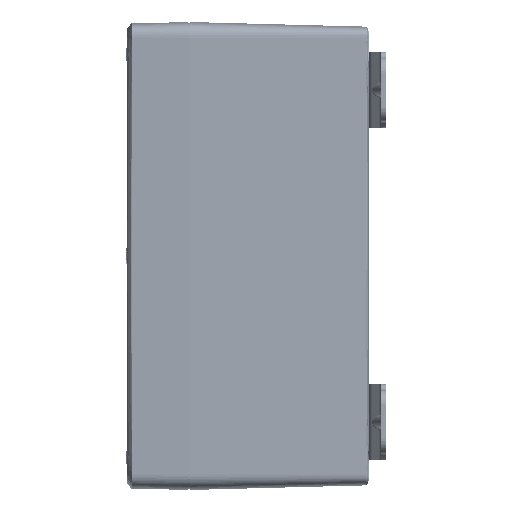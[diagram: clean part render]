
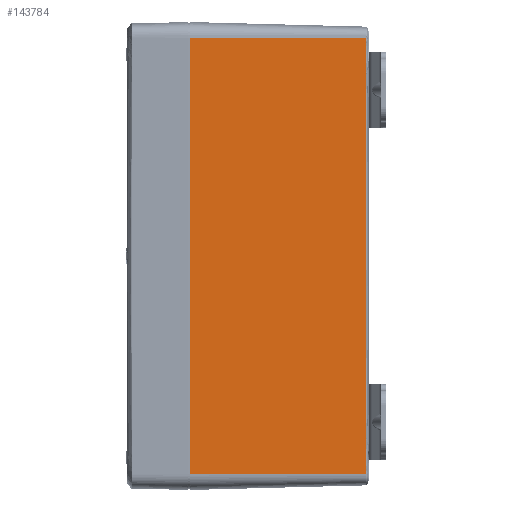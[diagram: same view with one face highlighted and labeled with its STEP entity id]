
A CAD part, left-side view. The second image highlights one B-rep face of the part: STEP entity #143784.
In plain terms, the highlighted planar face has unit normal (-1, -0.026, 0).
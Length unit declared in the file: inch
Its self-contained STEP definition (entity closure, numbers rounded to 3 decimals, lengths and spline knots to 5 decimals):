
#1742 = ORIENTED_EDGE ( 'NONE', *, *, #76186, .T. ) ;
#3012 = VECTOR ( 'NONE', #7502, 39.37008 ) ;
#3584 = LINE ( 'NONE', #45575, #157296 ) ;
#7502 = DIRECTION ( 'NONE',  ( 0., 0., 1. ) ) ;
#16120 = VERTEX_POINT ( 'NONE', #48439 ) ;
#16166 = LINE ( 'NONE', #78144, #153348 ) ;
#22711 = LINE ( 'NONE', #115311, #3012 ) ;
#30221 = EDGE_LOOP ( 'NONE', ( #1742, #81299, #31740, #160188 ) ) ;
#31740 = ORIENTED_EDGE ( 'NONE', *, *, #46072, .F. ) ;
#33539 = DIRECTION ( 'NONE',  ( -1., -0.026, 0. ) ) ;
#43972 = B_SPLINE_CURVE_WITH_KNOTS ( 'NONE', 3,
 ( #103565, #55777, #165652, #90326 ),
 .UNSPECIFIED., .F., .F.,
 ( 4, 4 ),
 ( 0., 1. ),
 .UNSPECIFIED. ) ;
#45575 = CARTESIAN_POINT ( 'NONE',  ( -5.5, 2.965, -3.60995 ) ) ;
#46072 = EDGE_CURVE ( 'NONE', #112609, #16120, #16166, .T. ) ;
#48439 = CARTESIAN_POINT ( 'NONE',  ( -5.42359, 0.04699, 3.60995 ) ) ;
#48808 = PLANE ( 'NONE',  #195822 ) ;
#55777 = CARTESIAN_POINT ( 'NONE',  ( -5.42359, 0.04699, -1.20332 ) ) ;
#63064 = CARTESIAN_POINT ( 'NONE',  ( -5.5, 2.965, -3.60995 ) ) ;
#76186 = EDGE_CURVE ( 'NONE', #88866, #96592, #3584, .T. ) ;
#78144 = CARTESIAN_POINT ( 'NONE',  ( -5.5, 2.965, 3.60995 ) ) ;
#81299 = ORIENTED_EDGE ( 'NONE', *, *, #144247, .T. ) ;
#88866 = VERTEX_POINT ( 'NONE', #99817 ) ;
#90326 = CARTESIAN_POINT ( 'NONE',  ( -5.42359, 0.04699, 3.60995 ) ) ;
#96592 = VERTEX_POINT ( 'NONE', #113681 ) ;
#99817 = CARTESIAN_POINT ( 'NONE',  ( -5.5, 2.965, -3.60995 ) ) ;
#103565 = CARTESIAN_POINT ( 'NONE',  ( -5.42359, 0.04698, -3.60995 ) ) ;
#110372 = DIRECTION ( 'NONE',  ( 0.026, -1., 0. ) ) ;
#112609 = VERTEX_POINT ( 'NONE', #136580 ) ;
#113681 = CARTESIAN_POINT ( 'NONE',  ( -5.42359, 0.04698, -3.60995 ) ) ;
#115311 = CARTESIAN_POINT ( 'NONE',  ( -5.5, 2.965, -3.60995 ) ) ;
#119617 = DIRECTION ( 'NONE',  ( 0.026, -1., 0. ) ) ;
#136580 = CARTESIAN_POINT ( 'NONE',  ( -5.5, 2.965, 3.60995 ) ) ;
#143784 = ADVANCED_FACE ( 'Face2', ( #155672 ), #48808, .T. ) ;
#144247 = EDGE_CURVE ( 'NONE', #96592, #16120, #43972, .T. ) ;
#153348 = VECTOR ( 'NONE', #119617, 39.37008 ) ;
#154108 = EDGE_CURVE ( 'NONE', #88866, #112609, #22711, .T. ) ;
#155672 = FACE_OUTER_BOUND ( 'NONE', #30221, .T. ) ;
#156662 = DIRECTION ( 'NONE',  ( 0.026, -1., 0. ) ) ;
#157296 = VECTOR ( 'NONE', #110372, 39.37008 ) ;
#160188 = ORIENTED_EDGE ( 'NONE', *, *, #154108, .F. ) ;
#165652 = CARTESIAN_POINT ( 'NONE',  ( -5.42359, 0.04699, 1.20332 ) ) ;
#195822 = AXIS2_PLACEMENT_3D ( 'NONE', #63064, #33539, #156662 ) ;
